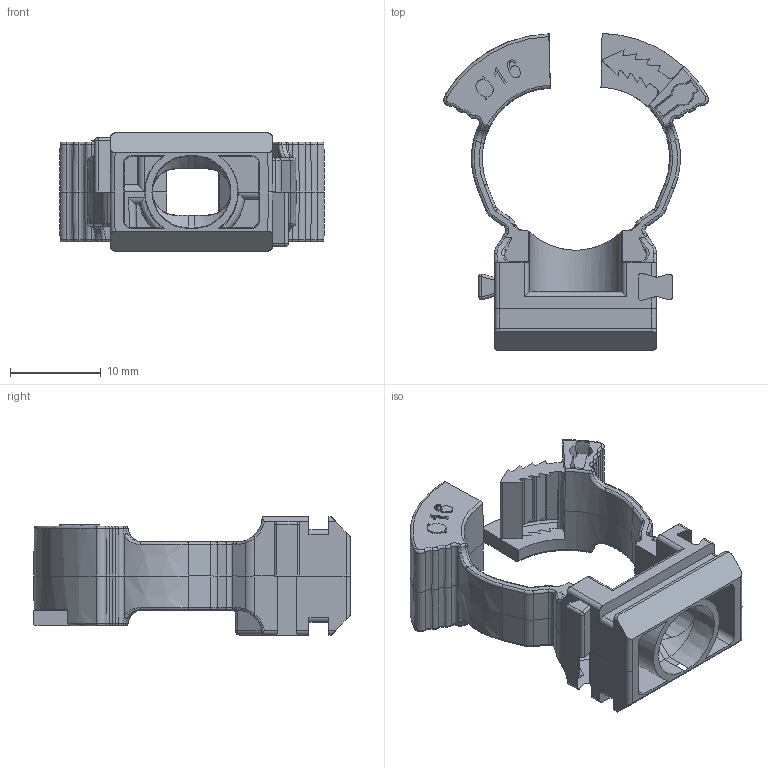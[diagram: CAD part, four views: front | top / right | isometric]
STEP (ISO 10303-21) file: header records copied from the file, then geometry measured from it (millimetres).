
FILE_DESCRIPTION(/* description */ (''),/* implementation_level */ '2;1');
FILE_NAME(/* name */ '4007002.stp',/* time_stamp */ '2016-09-28T20:17:03+02:00',/* author */ (''),/* organization */ (''),/* preprocessor_version */ 'ST-DEVELOPER v16',/* originating_system */ 'SIEMENS PLM Software NX 11.0',/* authorisation */ '');
FILE_SCHEMA (('AUTOMOTIVE_DESIGN { 1 0 10303 214 3 1 1 1 }'));
Length unit declared in the file: millimetre
Products named in the file (1): 4007002_LINKEDEXT_jt
Bounding box: 29.15 x 34.91 x 13 mm (x, y, z)
Surface area: 3113.3 mm2 (no closed solid volume)
Topology: 0 solids, 5 shells, 409 faces, 1185 edges, 742 vertices
Faces by surface type: plane 128, cylinder 107, bspline 85, cone 36, torus 28, revolution 11, sphere 9, extrusion 5
Entity records: 15716 total; most frequent: CARTESIAN_POINT 5653, ORIENTED_EDGE 2107, DIRECTION 1962, EDGE_CURVE 1172, VERTEX_POINT 742, AXIS2_PLACEMENT_3D 720, VECTOR 511, LINE 506
